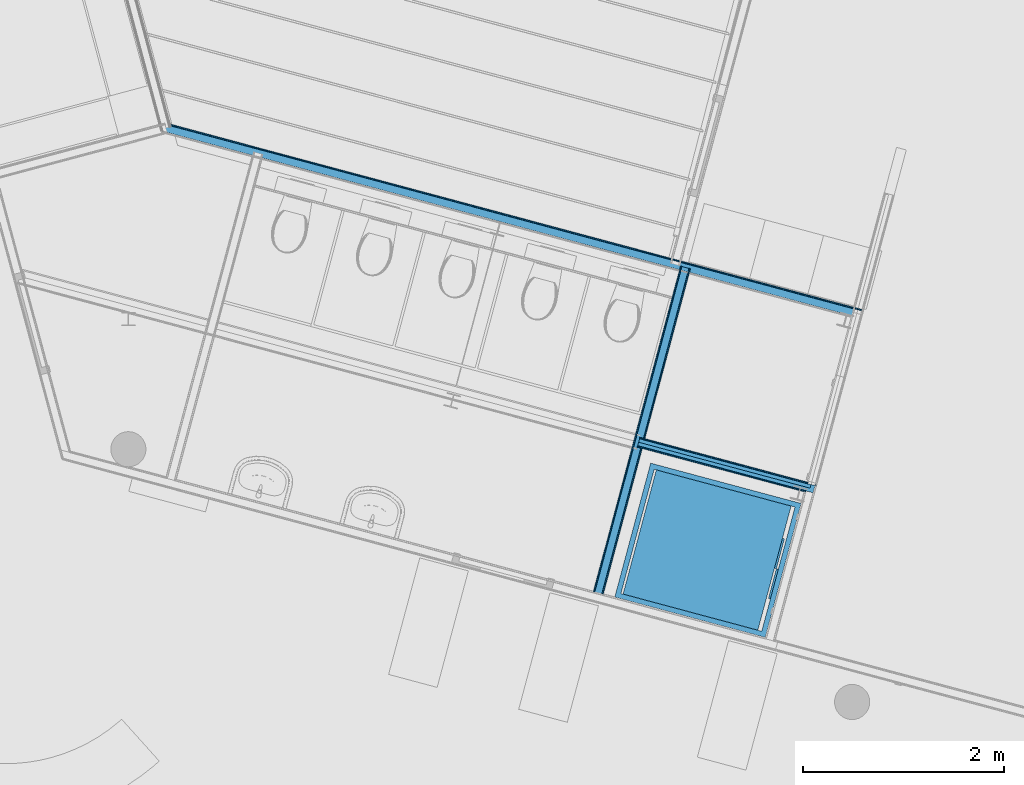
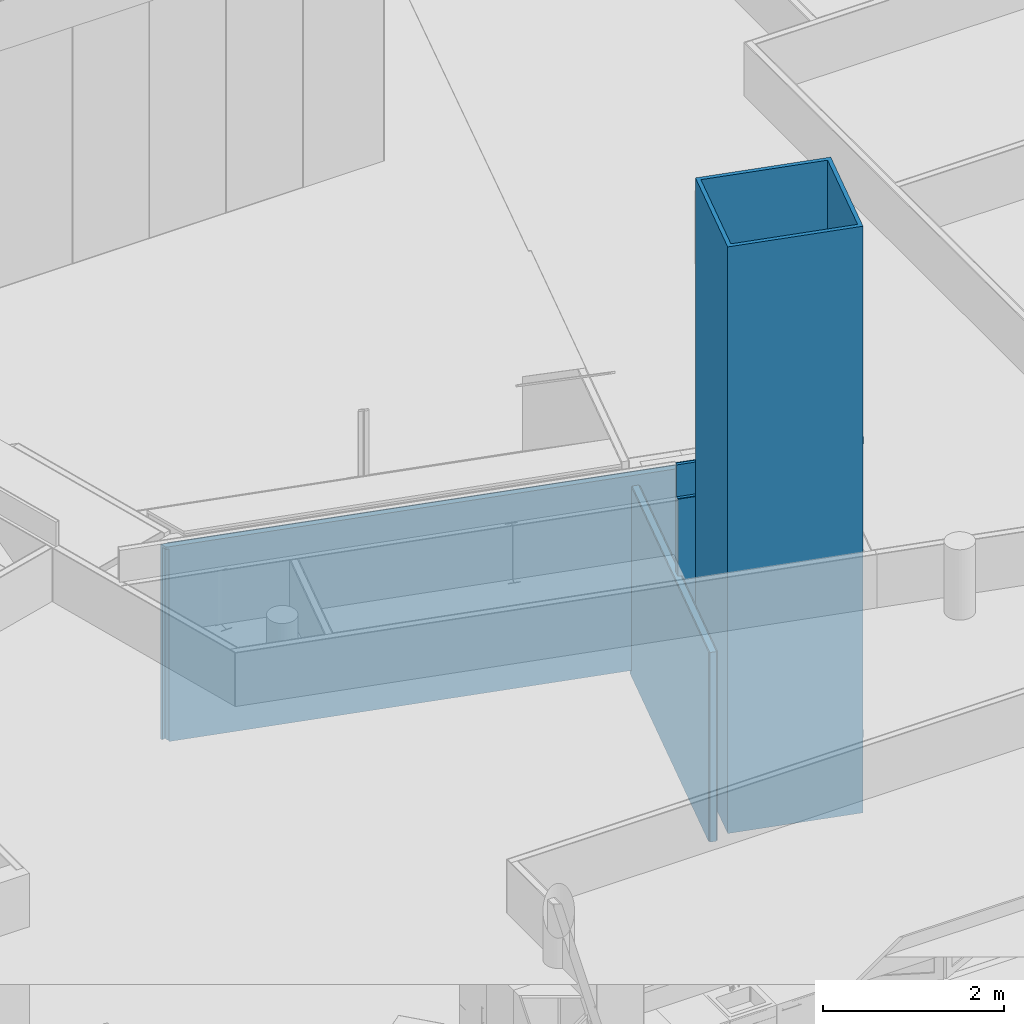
# One storey, part 55 of 167: 10 building element parts, 4 elements without a shape of their own.
"""IFC2X3 building model written with IfcOpenShell, lengths in millimetres."""

from ifc_helpers import new_model, entity, si_unit, converted_unit, derived_unit, money_unit, direction, frame, origin_with_axes, place, context, subcontext, project, spatial, faceted_brep, material, type_object, element, aggregate, save


model = new_model("IFC2X3")

# Units and contexts
model_context = context("Model", 3, precision=0.01, world=origin_with_axes(), true_north=direction((0.0, 1.0)))
plan_context = context("Plan", 3, precision=0.01, world=origin_with_axes(), true_north=direction((0.0, 1.0)))
body_context = subcontext(model_context, "Body", "Model", "MODEL_VIEW")
ifc_project = project(units=[si_unit("LENGTHUNIT", "METRE", prefix="MILLI"), si_unit("AREAUNIT", "SQUARE_METRE"), si_unit("VOLUMEUNIT", "CUBIC_METRE"), converted_unit("PLANEANGLEUNIT", "DEGREE", entity("IfcPlaneAngleMeasure", 0.0174532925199), si_unit("PLANEANGLEUNIT", "RADIAN"), dimensions=[0, 0, 0, 0, 0, 0, 0]), si_unit("SOLIDANGLEUNIT", "STERADIAN"), money_unit("EUR"), converted_unit("TIMEUNIT", "Year", entity("IfcTimeMeasure", 31556926.0), si_unit("TIMEUNIT", "SECOND"), dimensions=[0, 0, 1, 0, 0, 0, 0]), si_unit("MASSUNIT", "GRAM", prefix="KILO"), si_unit("THERMODYNAMICTEMPERATUREUNIT", "DEGREE_CELSIUS"), si_unit("LUMINOUSINTENSITYUNIT", "LUMEN"), si_unit("ENERGYUNIT", "JOULE", prefix="MEGA"), derived_unit("THERMALCONDUCTANCEUNIT", [(si_unit("POWERUNIT", "WATT"), 1), (si_unit("LENGTHUNIT", "METRE"), -1), (si_unit("THERMODYNAMICTEMPERATUREUNIT", "KELVIN"), -1)]), derived_unit("SPECIFICHEATCAPACITYUNIT", [(si_unit("ENERGYUNIT", "JOULE"), 1), (si_unit("MASSUNIT", "GRAM", prefix="KILO"), -1), (si_unit("THERMODYNAMICTEMPERATUREUNIT", "KELVIN"), -1)]), derived_unit("MASSDENSITYUNIT", [(si_unit("MASSUNIT", "GRAM", prefix="KILO"), 1), (si_unit("VOLUMEUNIT", "CUBIC_METRE"), -1)])], contexts=[model_context, plan_context])

# Site, building, storey
site_placement = place(None, origin_with_axes())
site = spatial("IfcSite", under=ifc_project, at=site_placement, Name="Site", CompositionType="ELEMENT")
building_placement = place(site_placement, origin_with_axes())
building = spatial("IfcBuilding", under=site, at=building_placement, Name="Naam gebouw", CompositionType="ELEMENT")
storey_placement = place(building_placement, origin_with_axes())
storey = spatial("IfcBuildingStorey", under=building, at=storey_placement, Name="Begane grond", CompositionType="ELEMENT", Elevation=0.0)

# Wall, building element parts
wall_type = type_object("IfcWallType", Name="_TenW_22_Metalstud 100 enkel gipsvezelplaat 100", PredefinedType="NOTDEFINED")
wall_1_placement = place(storey_placement, frame((19476.3922091, 13384.1557143, -100.0), z_axis=(0.0, 0.0, 1.0), x_axis=(0.965925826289, -0.258819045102, 0.0)))
wall_1 = element("IfcWall", 1, at=wall_1_placement, inside=storey, type_object=wall_type, Name="22_Wand_Wand-x")
ifc_material_1 = material(Name="Gipsplaat watervast")
building_element_part_1_placement = place(wall_1_placement, origin_with_axes())
building_element_part_1 = element("IfcBuildingElementPart", 2, at=building_element_part_1_placement, material=ifc_material_1, Name="Gipsplaat watervast", context=body_context, shape_type="Brep", body=[
    faceted_brep([(1673.67397269, 49.9999999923, 2545.5), (1673.67397269, 49.9999999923, 2661.5), (1731.81807193, 49.9999993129, 2661.5), (1731.81807192, 49.9999993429, 2545.5), (1673.67397269, 37.5, 2545.5), (1673.67397269, 37.5, 2661.5), (1731.81807192, 37.4999950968, 2661.5), (1731.81807191, 37.499995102, 2545.5)], [[[0, 1, 2, 3]], [[1, 0, 4, 5]], [[6, 2, 1, 5]], [[7, 3, 2, 6]], [[0, 3, 7, 4]], [[4, 7, 6, 5]]]),
    faceted_brep([(1806.81807167, 49.9999999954, 30.0), (1806.81807172, 49.9999994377, 3630.0), (1819.31807376, 49.9999995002, 3630.0), (1819.3180912, 49.9999999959, 30.0), (1806.81807167, 37.4999952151, 30.0), (1806.81807167, 37.4999950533, 3630.0), (1819.31807376, 37.4999995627, 3630.0), (1819.3180912, 37.4999999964, 30.0)], [[[0, 1, 2, 3]], [[4, 5, 1, 0]], [[5, 6, 2, 1]], [[3, 2, 6, 7]], [[4, 0, 3, 7]], [[7, 6, 5, 4]]]),
    faceted_brep([(1731.81807192, 37.4999950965, 2670.0), (1731.81807194, 49.9999993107, 2670.0), (1731.81807207, 49.9999989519, 4060.0), (1731.81807205, 37.499995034, 4060.0), (1600.92397269, 49.9999999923, 2670.0), (1600.92397269, 37.5, 2670.0), (1600.92397269, 49.9999999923, 2537.0), (1731.81807192, 49.9999993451, 2537.0), (1731.81807168, 49.9999999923, 30.0), (50.0, 50.0, 30.0), (50.0, 50.0, 2590.0), (0.0, 49.9999892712, 2590.0), (0.0, 49.9999892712, 4060.0), (1600.92397269, 49.9999999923, 2661.5), (1668.17397269, 49.9999999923, 2661.5), (1668.17397269, 49.9999999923, 2545.5), (1600.92397269, 49.9999999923, 2545.5), (0.0, 37.4999906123, 4060.0), (0.0, 37.4999906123, 2590.0), (50.0, 37.5, 2590.0), (50.0, 37.5, 30.0), (1731.81807168, 37.4999952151, 30.0), (1731.81807191, 37.4999951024, 2537.0), (1600.92397269, 37.5, 2537.0), (1600.92397269, 37.5, 2545.5), (1668.17397269, 37.5, 2545.5), (1668.17397269, 37.5, 2661.5), (1600.92397269, 37.5, 2661.5)], [[[0, 1, 2, 3]], [[4, 1, 0, 5]], [[6, 7, 8, 9, 10, 11, 12, 2, 1, 4, 13, 14, 15, 16]], [[12, 17, 3, 2]], [[5, 0, 3, 17, 18, 19, 20, 21, 22, 23, 24, 25, 26, 27]], [[13, 4, 5, 27]], [[22, 7, 6, 23]], [[7, 22, 21, 8]], [[20, 9, 8, 21]], [[10, 9, 20, 19]], [[18, 11, 10, 19]], [[17, 12, 11, 18]], [[14, 13, 27, 26]], [[15, 14, 26, 25]], [[16, 15, 25, 24]], [[6, 16, 24, 23]]]),
])
ifc_material_2 = material(Name="Isolatie - Steenwol zacht")
building_element_part_2_placement = place(wall_1_placement, origin_with_axes())
building_element_part_2 = element("IfcBuildingElementPart", 3, at=building_element_part_2_placement, material=ifc_material_2, Name="Isolatie - Steenwol zacht", context=body_context, shape_type="Brep", body=[
    faceted_brep([(1765.58246867, 37.4999992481, 4060.0), (1765.58246867, 37.5, 3630.0), (1806.81807167, 37.499999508, 3630.0), (1806.81807167, 37.4999999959, 30.0), (37.5, 37.5, 30.0), (37.5, 37.5, 2590.0), (0.0, 37.4999906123, 2590.0), (0.0, 37.4999906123, 4060.0), (1673.67397269, 37.5, 2661.5), (1740.92397269, 37.5, 2661.5), (1740.92397269, 37.5, 2670.0), (1600.92397269, 37.5, 2670.0), (1600.92397269, 37.5, 2661.5), (1668.17397269, 37.5, 2661.5), (1668.17397269, 37.5, 2545.5), (1600.92397269, 37.5, 2545.5), (1600.92397269, 37.5, 2537.0), (1740.92397269, 37.5, 2537.0), (1740.92397269, 37.5, 2545.5), (1673.67397269, 37.5, 2545.5), (1765.5930145, -1.84741111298e-10, 4060.0), (1765.5930145, -1.84741111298e-10, 3630.0), (0.0, 5.82645043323e-10, 3630.0), (0.0, -37.5000013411, 3630.0), (1806.81807167, -37.5000000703, 3630.0), (1806.81807167, -37.5000000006, 30.0), (37.5, -37.5, 30.0), (37.5, -37.5, 2590.0), (0.0, -37.5000013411, 2590.0), (0.0, 5.82645043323e-10, 4060.0), (1673.67397269, -15.0000000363, 2661.5), (1740.92397269, -15.0000000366, 2661.5), (1740.92397269, -15.0000000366, 2670.0), (1600.92397269, -15.000000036, 2670.0), (1600.92397269, -15.000000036, 2661.5), (1668.17397269, -15.0000000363, 2661.5), (1668.17397269, -15.0000000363, 2545.5), (1600.92397269, -15.000000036, 2545.5), (1600.92397269, -15.000000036, 2537.0), (1740.92397269, -15.0000000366, 2537.0), (1740.92397269, -15.0000000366, 2545.5), (1673.67397269, -15.0000000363, 2545.5)], [[[0, 1, 2, 3, 4, 5, 6, 7], [8, 9, 10, 11, 12, 13, 14, 15, 16, 17, 18, 19]], [[20, 21, 1, 0]], [[1, 21, 22, 23, 24, 2]], [[3, 2, 24, 25]], [[26, 4, 3, 25]], [[5, 4, 26, 27]], [[27, 28, 6, 5]], [[23, 22, 29, 7, 6, 28]], [[7, 29, 20, 0]], [[9, 8, 30, 31]], [[10, 9, 31, 32]], [[11, 10, 32, 33]], [[12, 11, 33, 34]], [[13, 12, 34, 35]], [[14, 13, 35, 36]], [[15, 14, 36, 37]], [[16, 15, 37, 38]], [[17, 16, 38, 39]], [[18, 17, 39, 40]], [[19, 18, 40, 41]], [[8, 19, 41, 30]], [[20, 29, 22, 21]], [[24, 23, 28, 27, 26, 25]], [[32, 31, 30, 41, 40, 39, 38, 37, 36, 35, 34, 33]]]),
])
building_element_part_3_placement = place(wall_1_placement, origin_with_axes())
building_element_part_3 = element("IfcBuildingElementPart", 4, at=building_element_part_3_placement, material=ifc_material_1, Name="Gipsplaat watervast", context=body_context, shape_type="Brep", body=[
    faceted_brep([(0.0, -37.5000013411, 2590.0), (0.0, -37.5000013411, 3630.0), (1731.81807167, -37.5000001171, 3630.0), (1731.81807167, -37.500000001, 30.0), (50.0, -37.5, 30.0), (50.0, -37.5, 2590.0), (0.0, -50.0, 2590.0), (0.0, -50.0, 3630.0), (1731.81807167, -50.0, 3630.0), (1731.81807167, -50.0, 30.0), (50.0, -50.0, 30.0), (50.0, -50.0, 2590.0)], [[[0, 1, 2, 3, 4, 5]], [[6, 7, 1, 0]], [[7, 8, 2, 1]], [[3, 2, 8, 9]], [[10, 4, 3, 9]], [[5, 4, 10, 11]], [[6, 0, 5, 11]], [[9, 8, 7, 6, 11, 10]]]),
])
aggregate(wall_1, [building_element_part_1, building_element_part_2, building_element_part_3])

wall_2_placement = place(storey_placement, frame((14773.2838632, 16507.8655572, 0.0), z_axis=(0.0, 0.0, 1.0), x_axis=(0.965925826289, -0.258819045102, 0.0)))
wall_2 = element("IfcWall", 5, at=wall_2_placement, inside=storey, type_object=wall_type, Name="22_Wand_Wand-x")
building_element_part_4_placement = place(wall_2_placement, origin_with_axes())
building_element_part_4 = element("IfcBuildingElementPart", 6, at=building_element_part_4_placement, material=ifc_material_1, Name="Gipsplaat watervast", context=body_context, shape_type="Brep", body=[
    faceted_brep([(14.4337567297, 50.0, 2630.0), (7070.6474855, 50.0, 2630.0), (7070.6474855, 50.0, 2490.0), (7170.6474855, 50.0, 2490.0), (7170.64750293, 50.0, 0.0), (14.4337567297, 50.0, 0.0), (21.6506350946, 37.5, 2630.0), (7070.6474855, 37.5, 2630.0), (7070.6474855, 37.5, 2490.0), (7170.6474855, 37.5, 2490.0), (7170.64750293, 37.5, 0.0), (21.6506350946, 37.5, 0.0)], [[[0, 1, 2, 3, 4, 5]], [[6, 7, 1, 0]], [[8, 2, 1, 7]], [[9, 3, 2, 8]], [[4, 3, 9, 10]], [[11, 5, 4, 10]], [[5, 11, 6, 0]], [[9, 8, 7, 6, 11, 10]]]),
])
building_element_part_5_placement = place(wall_2_placement, origin_with_axes())
building_element_part_5 = element("IfcBuildingElementPart", 7, at=building_element_part_5_placement, material=ifc_material_2, Name="Isolatie - Steenwol zacht", context=body_context, shape_type="Brep", body=[
    faceted_brep([(7025.00338651, -37.5, 2561.5), (7025.00338651, -37.5, 2445.5), (7092.25338651, -37.5, 2445.5), (7092.25338651, -37.5, 2437.0), (6952.25338651, -37.5, 2437.0), (6952.25338651, -37.5, 2445.5), (7019.50338651, -37.5, 2445.5), (7019.50338651, -37.5, 2561.5), (6952.25338651, -37.5, 2561.5), (6952.25338651, -37.5, 2570.0), (7083.1474855, -37.5, 2570.0), (7083.1474855, -37.5, 2630.0), (-21.6506350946, -37.5, 2630.0), (-21.6506350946, -37.5, 2600.0), (10.9879043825, -37.5, 2600.0), (10.9879043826, -37.5, 0.0), (7158.1474855, -37.5, 0.0), (7158.1474855, -37.5, 2490.0), (7083.1474855, -37.5, 2490.0), (7083.1474855, -37.5, 2561.5), (7025.00338651, -29.2165311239, 2561.5), (7025.00338651, -29.2165311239, 2445.5), (7092.25338651, -29.2165311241, 2445.5), (7092.25338651, -29.2165311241, 2437.0), (6952.25338651, -29.2165311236, 2437.0), (6952.25338651, -29.2165311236, 2445.5), (7019.50338651, -29.2165311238, 2445.5), (7019.50338651, -29.2165311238, 2561.5), (6952.25338651, -29.2165311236, 2561.5), (6952.25338651, -29.2165311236, 2570.0), (7083.1474855, -29.2165311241, 2570.0), (7083.1474855, -29.2165311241, 2561.5), (7083.1474855, 37.5, 2490.0), (7083.1474855, 37.5, 2630.0), (-64.9519052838, 37.5, 2630.0), (-50.9910002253, 13.319003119, 0.0), (-50.9910002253, 13.319003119, 2600.0), (-64.9519052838, 37.5, 0.0), (20.5037087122, -32.0060478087, 2600.0), (-16.9962912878, 32.9458574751, 2600.0), (20.5037087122, -32.0060478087, 0.0), (-16.9962912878, 32.9458574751, 0.0), (7158.1474855, 37.5, 0.0), (7158.1474855, 37.5, 2490.0)], [[[0, 1, 2, 3, 4, 5, 6, 7, 8, 9, 10, 11, 12, 13, 14, 15, 16, 17, 18, 19]], [[1, 0, 20, 21]], [[2, 1, 21, 22]], [[3, 2, 22, 23]], [[4, 3, 23, 24]], [[5, 4, 24, 25]], [[6, 5, 25, 26]], [[7, 6, 26, 27]], [[8, 7, 27, 28]], [[9, 8, 28, 29]], [[30, 10, 9, 29]], [[31, 19, 18, 32, 33, 11, 10, 30]], [[12, 11, 33, 34]], [[35, 36, 13, 12, 34, 37]], [[38, 14, 13, 36, 39]], [[38, 40, 15, 14]], [[40, 41, 35, 37, 42, 16, 15]], [[16, 42, 43, 17]], [[18, 17, 43, 32]], [[19, 31, 20, 0]], [[31, 30, 29, 28, 27, 26, 25, 24, 23, 22, 21, 20]], [[32, 43, 42, 37, 34, 33]], [[36, 35, 41, 39]], [[39, 41, 40, 38]]]),
])
aggregate(wall_2, [building_element_part_4, building_element_part_5])

wall_3_placement = place(storey_placement, frame((19942.271149, 15122.8395883, -100.0), z_axis=(0.0, 0.0, 1.0), x_axis=(-0.258819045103, -0.965925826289, 0.0)))
wall_3 = element("IfcWall", 8, at=wall_3_placement, inside=storey, type_object=wall_type, Name="22_Wand_Wand-x")
building_element_part_6_placement = place(wall_3_placement, origin_with_axes())
building_element_part_6 = element("IfcBuildingElementPart", 9, at=building_element_part_6_placement, material=ifc_material_1, Name="Gipsplaat watervast", context=body_context, shape_type="Brep", body=[
    faceted_brep([(1762.518, 50.0, 30.0), (0.0, 50.0, 30.0), (0.0, 50.0, 100.0), (50.0, 50.0, 100.0), (50.0, 50.0, 2590.0), (1762.518, 50.0, 2590.0), (0.0, 37.5, 30.0), (1762.518, 37.5, 30.0), (0.0, 37.5, 100.0), (50.0, 37.5, 100.0), (50.0, 37.5, 2590.0), (1762.518, 37.5, 2590.0)], [[[0, 1, 2, 3, 4, 5]], [[6, 1, 0, 7]], [[1, 6, 8, 2]], [[2, 8, 9, 3]], [[9, 10, 4, 3]], [[5, 4, 10, 11]], [[7, 0, 5, 11]], [[6, 7, 11, 10, 9, 8]]]),
    faceted_brep([(3349.99455544, 50.0, 30.0), (1837.518, 50.0, 30.0), (1837.518, 50.0, 2590.0), (3349.99455544, 50.0, 2590.0), (1837.518, 37.5, 30.0), (3349.99455544, 37.5, 30.0), (1837.518, 37.5, 2590.0), (3349.99455544, 37.5, 2590.0)], [[[0, 1, 2, 3]], [[4, 1, 0, 5]], [[1, 4, 6, 2]], [[2, 6, 7, 3]], [[5, 0, 3, 7]], [[4, 5, 7, 6]]]),
])
building_element_part_7_placement = place(wall_3_placement, origin_with_axes())
building_element_part_7 = element("IfcBuildingElementPart", 10, at=building_element_part_7_placement, material=ifc_material_2, Name="Isolatie - Steenwol zacht", context=body_context, shape_type="Brep", body=[
    faceted_brep([(3362.49455544, 37.5, 30.0), (0.0, 37.5, 30.0), (0.0, 37.5, 100.0), (37.5, 37.5, 100.0), (37.5, 37.5, 2590.0), (3362.49455544, 37.5, 2590.0), (0.0, -37.5, 30.0), (3362.49455544, -37.5, 30.0), (0.0, -37.5, 100.0), (37.5, -37.5, 100.0), (37.5, -37.5, 2590.0), (3362.49455544, -37.5, 2590.0)], [[[0, 1, 2, 3, 4, 5]], [[6, 1, 0, 7]], [[1, 6, 8, 2]], [[9, 3, 2, 8]], [[9, 10, 4, 3]], [[5, 4, 10, 11]], [[7, 0, 5, 11]], [[6, 7, 11, 10, 9, 8]]]),
])
building_element_part_8_placement = place(wall_3_placement, origin_with_axes())
building_element_part_8 = element("IfcBuildingElementPart", 11, at=building_element_part_8_placement, material=ifc_material_1, Name="Gipsplaat watervast", context=body_context, shape_type="Brep", body=[
    faceted_brep([(3349.99455544, -37.5, 30.0), (0.0, -37.5, 30.0), (0.0, -37.5, 100.0), (50.0, -37.5, 100.0), (50.0, -37.5, 2590.0), (3349.99455544, -37.5, 2590.0), (0.0, -50.0, 30.0), (3349.99455544, -50.0, 30.0), (0.0, -50.0, 100.0), (50.0, -50.0, 100.0), (50.0, -50.0, 2590.0), (3349.99455544, -50.0, 2590.0)], [[[0, 1, 2, 3, 4, 5]], [[6, 1, 0, 7]], [[1, 6, 8, 2]], [[2, 8, 9, 3]], [[9, 10, 4, 3]], [[5, 4, 10, 11]], [[7, 0, 5, 11]], [[6, 7, 11, 10, 9, 8]]]),
])
aggregate(wall_3, [building_element_part_6, building_element_part_7, building_element_part_8])

# Proxy, building element parts
building_element_proxy_type = type_object("IfcBuildingElementProxyType", Name="Lift 24", PredefinedType="NOTDEFINED")
proxy_placement = place(storey_placement, frame((20735.9624861, 11442.0010677, 0.0), z_axis=(0.0, 0.0, 1.0), x_axis=(0.258819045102, 0.965925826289, 0.0)))
proxy = element("IfcBuildingElementProxy", 12, at=proxy_placement, inside=storey, type_object=building_element_proxy_type, Name="__Object-x")
building_element_part_9_placement = place(proxy_placement, origin_with_axes())
building_element_part_9 = element("IfcBuildingElementPart", 13, at=building_element_part_9_placement, context=body_context, shape_type="Brep", body=[
    faceted_brep([(996.75, 170.0, 3960.0), (1249.0, 170.0, 3960.0), (1249.0, 1398.0, 3960.0), (131.0, 1398.0, 3960.0), (131.0, 170.0, 3960.0), (383.25, 170.0, 3960.0), (383.25, 90.0, 3960.0), (51.0, 90.0, 3960.0), (51.0, 1478.0, 3960.0), (1329.0, 1478.0, 3960.0), (1329.0, 90.0, 3960.0), (996.75, 90.0, 3960.0), (131.0, 170.0, 6360.0), (1249.0, 170.0, 6360.0), (996.75, 170.0, 6260.0), (383.25, 170.0, 6260.0), (1249.0, 1398.0, 6360.0), (131.0, 1398.0, 6360.0), (383.25, 90.0, 6260.0), (996.75, 90.0, 6260.0), (1329.0, 90.0, 6360.0), (51.0, 90.0, 6360.0), (51.0, 1478.0, 6360.0), (1329.0, 1478.0, 6360.0)], [[[0, 1, 2, 3, 4, 5, 6, 7, 8, 9, 10, 11]], [[12, 13, 1, 0, 14, 15, 5, 4]], [[13, 16, 2, 1]], [[16, 17, 3, 2]], [[17, 12, 4, 3]], [[5, 15, 18, 6]], [[7, 6, 18, 19, 11, 10, 20, 21]], [[21, 22, 8, 7]], [[22, 23, 9, 8]], [[23, 20, 10, 9]], [[14, 0, 11, 19]], [[23, 22, 21, 20], [12, 17, 16, 13]], [[15, 14, 19, 18]]]),
    faceted_brep([(51.0, 90.0, 3910.0), (1329.0, 90.0, 3910.0), (1329.0, 90.0, 3960.0), (51.0, 90.0, 3960.0), (51.0, 1478.0, 3910.0), (1329.0, 1478.0, 3910.0), (1329.0, 1478.0, 3960.0), (51.0, 1478.0, 3960.0)], [[[0, 1, 2, 3]], [[0, 4, 5, 1]], [[1, 5, 6, 2]], [[3, 2, 6, 7]], [[4, 0, 3, 7]], [[5, 4, 7, 6]]]),
    faceted_brep([(51.0, 90.0, 6360.0), (1329.0, 90.0, 6360.0), (1329.0, 90.0, 6410.0), (51.0, 90.0, 6410.0), (51.0, 1478.0, 6360.0), (1329.0, 1478.0, 6360.0), (1329.0, 1478.0, 6410.0), (51.0, 1478.0, 6410.0)], [[[0, 1, 2, 3]], [[0, 4, 5, 1]], [[1, 5, 6, 2]], [[3, 2, 6, 7]], [[4, 0, 3, 7]], [[5, 4, 7, 6]]]),
    faceted_brep([(1249.0, 270.0, 4960.0), (1249.0, 370.0, 4960.0), (1249.0, 370.0, 5060.0), (1249.0, 270.0, 5060.0), (1239.0, 270.0, 4960.0), (1239.0, 370.0, 4960.0), (1239.0, 370.0, 5060.0), (1239.0, 270.0, 5060.0)], [[[0, 1, 2, 3]], [[1, 0, 4, 5]], [[2, 1, 5, 6]], [[3, 2, 6, 7]], [[0, 3, 7, 4]], [[5, 4, 7, 6]]]),
    faceted_brep([(1239.0, 350.428932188, 4965.42893219), (1239.0, 350.428932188, 4979.57106781), (1234.0, 351.843145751, 4978.15685425), (1234.0, 351.843145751, 4966.84314575), (1239.0, 364.571067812, 4965.42893219), (1239.0, 364.571067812, 4979.57106781), (1234.0, 363.156854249, 4978.15685425), (1234.0, 363.156854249, 4966.84314575)], [[[0, 1, 2, 3]], [[0, 4, 5, 1]], [[1, 5, 6, 2]], [[3, 2, 6, 7]], [[4, 0, 3, 7]], [[5, 4, 7, 6]]]),
    faceted_brep([(1239.0, 325.428932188, 4965.42893219), (1239.0, 325.428932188, 4979.57106781), (1234.0, 326.843145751, 4978.15685425), (1234.0, 326.843145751, 4966.84314575), (1239.0, 339.571067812, 4965.42893219), (1239.0, 339.571067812, 4979.57106781), (1234.0, 338.156854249, 4978.15685425), (1234.0, 338.156854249, 4966.84314575)], [[[0, 1, 2, 3]], [[0, 4, 5, 1]], [[1, 5, 6, 2]], [[3, 2, 6, 7]], [[4, 0, 3, 7]], [[5, 4, 7, 6]]]),
    faceted_brep([(1239.0, 300.428932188, 4965.42893219), (1239.0, 300.428932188, 4979.57106781), (1234.0, 301.843145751, 4978.15685425), (1234.0, 301.843145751, 4966.84314575), (1239.0, 314.571067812, 4965.42893219), (1239.0, 314.571067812, 4979.57106781), (1234.0, 313.156854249, 4978.15685425), (1234.0, 313.156854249, 4966.84314575)], [[[0, 1, 2, 3]], [[0, 4, 5, 1]], [[1, 5, 6, 2]], [[3, 2, 6, 7]], [[4, 0, 3, 7]], [[5, 4, 7, 6]]]),
    faceted_brep([(1239.0, 275.428932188, 4965.42893219), (1239.0, 275.428932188, 4979.57106781), (1234.0, 276.843145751, 4978.15685425), (1234.0, 276.843145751, 4966.84314575), (1239.0, 289.571067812, 4965.42893219), (1239.0, 289.571067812, 4979.57106781), (1234.0, 288.156854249, 4978.15685425), (1234.0, 288.156854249, 4966.84314575)], [[[0, 1, 2, 3]], [[0, 4, 5, 1]], [[1, 5, 6, 2]], [[3, 2, 6, 7]], [[4, 0, 3, 7]], [[5, 4, 7, 6]]]),
    faceted_brep([(1239.0, 350.428932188, 5040.42893219), (1239.0, 350.428932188, 5054.57106781), (1234.0, 351.843145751, 5053.15685425), (1234.0, 351.843145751, 5041.84314575), (1239.0, 364.571067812, 5040.42893219), (1239.0, 364.571067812, 5054.57106781), (1234.0, 363.156854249, 5053.15685425), (1234.0, 363.156854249, 5041.84314575)], [[[0, 1, 2, 3]], [[0, 4, 5, 1]], [[1, 5, 6, 2]], [[3, 2, 6, 7]], [[4, 0, 3, 7]], [[5, 4, 7, 6]]]),
    faceted_brep([(1239.0, 350.428932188, 5015.42893219), (1239.0, 350.428932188, 5029.57106781), (1234.0, 351.843145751, 5028.15685425), (1234.0, 351.843145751, 5016.84314575), (1239.0, 364.571067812, 5015.42893219), (1239.0, 364.571067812, 5029.57106781), (1234.0, 363.156854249, 5028.15685425), (1234.0, 363.156854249, 5016.84314575)], [[[0, 1, 2, 3]], [[0, 4, 5, 1]], [[1, 5, 6, 2]], [[3, 2, 6, 7]], [[4, 0, 3, 7]], [[5, 4, 7, 6]]]),
    faceted_brep([(203.25, 50.0, 3960.0), (383.25, 50.0, 3960.0), (383.25, -10.0, 3960.0), (203.25, -10.0, 3960.0), (203.25, 50.0, 6440.0), (1176.75, 50.0, 6440.0), (1176.75, 50.0, 3960.0), (996.75, 50.0, 3960.0), (996.75, 50.0, 6260.0), (383.25, 50.0, 6260.0), (383.25, -10.0, 6260.0), (996.75, -10.0, 6260.0), (996.75, -10.0, 3960.0), (1176.75, -10.0, 3960.0), (1176.75, -10.0, 6440.0), (203.25, -10.0, 6440.0)], [[[0, 1, 2, 3]], [[0, 4, 5, 6, 7, 8, 9, 1]], [[1, 9, 10, 2]], [[3, 2, 10, 11, 12, 13, 14, 15]], [[4, 0, 3, 15]], [[5, 4, 15, 14]], [[6, 5, 14, 13]], [[7, 6, 13, 12]], [[8, 7, 12, 11]], [[9, 8, 11, 10]]]),
    faceted_brep([(203.25, 0.0, 3960.0), (223.25, 0.0, 3960.0), (223.25, -10.0, 3960.0), (203.25, -10.0, 3960.0), (203.25, 0.0, 6440.0), (1176.75, 0.0, 6440.0), (1176.75, 0.0, 3960.0), (1156.75, 0.0, 3960.0), (1156.75, 0.0, 6420.0), (223.25, 0.0, 6420.0), (223.25, -10.0, 6420.0), (1156.75, -10.0, 6420.0), (1156.75, -10.0, 3960.0), (1176.75, -10.0, 3960.0), (1176.75, -10.0, 6440.0), (203.25, -10.0, 6440.0)], [[[0, 1, 2, 3]], [[0, 4, 5, 6, 7, 8, 9, 1]], [[1, 9, 10, 2]], [[3, 2, 10, 11, 12, 13, 14, 15]], [[4, 0, 3, 15]], [[5, 4, 15, 14]], [[6, 5, 14, 13]], [[7, 6, 13, 12]], [[8, 7, 12, 11]], [[9, 8, 11, 10]]]),
    faceted_brep([(163.25, 0.0, 3960.0), (223.25, 0.0, 3960.0), (223.25, -20.0, 3960.0), (163.25, -20.0, 3960.0), (163.25, 0.0, 6480.0), (1216.75, 0.0, 6480.0), (1216.75, 0.0, 3960.0), (1156.75, 0.0, 3960.0), (1156.75, 0.0, 6420.0), (223.25, 0.0, 6420.0), (223.25, -20.0, 6420.0), (1156.75, -20.0, 6420.0), (1156.75, -20.0, 3960.0), (1216.75, -20.0, 3960.0), (1216.75, -20.0, 6480.0), (163.25, -20.0, 6480.0)], [[[0, 1, 2, 3]], [[0, 4, 5, 6, 7, 8, 9, 1]], [[1, 9, 10, 2]], [[3, 2, 10, 11, 12, 13, 14, 15]], [[4, 0, 3, 15]], [[5, 4, 15, 14]], [[6, 5, 14, 13]], [[7, 6, 13, 12]], [[8, 7, 12, 11]], [[9, 8, 11, 10]]]),
    faceted_brep([(690.0, 70.0, 3960.0), (383.25, 70.0, 3960.0), (383.25, 70.0, 6260.0), (690.0, 70.0, 6260.0), (690.0, 50.0, 3960.0), (383.25, 50.0, 3960.0), (383.25, 50.0, 6260.0), (690.0, 50.0, 6260.0)], [[[0, 1, 2, 3]], [[1, 0, 4, 5]], [[2, 1, 5, 6]], [[3, 2, 6, 7]], [[0, 3, 7, 4]], [[5, 4, 7, 6]]]),
    faceted_brep([(996.75, 90.0, 3960.0), (690.0, 90.0, 3960.0), (690.0, 90.0, 6260.0), (996.75, 90.0, 6260.0), (996.75, 70.0, 3960.0), (690.0, 70.0, 3960.0), (690.0, 70.0, 6260.0), (996.75, 70.0, 6260.0)], [[[0, 1, 2, 3]], [[1, 0, 4, 5]], [[2, 1, 5, 6]], [[3, 2, 6, 7]], [[0, 3, 7, 4]], [[5, 4, 7, 6]]]),
    faceted_brep([(103.25, 0.0, 4960.0), (23.25, 0.0, 4960.0), (23.25, 0.0, 5060.0), (103.25, 0.0, 5060.0), (103.25, -10.0, 4960.0), (23.25, -10.0, 4960.0), (23.25, -10.0, 5060.0), (103.25, -10.0, 5060.0)], [[[0, 1, 2, 3]], [[1, 0, 4, 5]], [[2, 1, 5, 6]], [[3, 2, 6, 7]], [[0, 3, 7, 4]], [[5, 4, 7, 6]]]),
    faceted_brep([(58.25, -10.0, 5040.0), (58.25, -12.0, 5040.0), (68.25, -12.0, 5040.0), (68.25, -10.0, 5040.0), (58.25, -10.0, 5028.0), (58.25, -12.0, 5028.0), (49.25, -12.0, 5028.0), (63.25, -12.0, 5013.0), (77.25, -12.0, 5028.0), (68.25, -12.0, 5028.0), (68.25, -10.0, 5028.0), (77.25, -10.0, 5028.0), (63.25, -10.0, 5013.0), (49.25, -10.0, 5028.0)], [[[0, 1, 2, 3]], [[4, 5, 1, 0]], [[1, 5, 6, 7, 8, 9, 2]], [[3, 2, 9, 10]], [[0, 3, 10, 11, 12, 13, 4]], [[13, 6, 5, 4]], [[12, 7, 6, 13]], [[11, 8, 7, 12]], [[10, 9, 8, 11]]]),
    faceted_brep([(73.6423048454, -10.0, 4984.0), (75.25, -10.0, 4990.0), (73.25, -16.0, 4990.0), (71.9102540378, -16.0, 4985.0), (69.25, -10.0, 4979.60769515), (63.25, -10.0, 4978.0), (57.25, -10.0, 4979.60769515), (52.8576951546, -10.0, 4984.0), (51.25, -10.0, 4990.0), (52.8576951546, -10.0, 4996.0), (57.25, -10.0, 5000.39230485), (63.25, -10.0, 5002.0), (69.25, -10.0, 5000.39230485), (73.6423048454, -10.0, 4996.0), (71.9102540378, -16.0, 4995.0), (68.25, -16.0, 4998.66025404), (63.25, -16.0, 5000.0), (58.25, -16.0, 4998.66025404), (54.5897459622, -16.0, 4995.0), (53.25, -16.0, 4990.0), (54.5897459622, -16.0, 4985.0), (58.25, -16.0, 4981.33974596), (63.25, -16.0, 4980.0), (68.25, -16.0, 4981.33974596)], [[[0, 1, 2, 3]], [[0, 4, 5, 6, 7, 8, 9, 10, 11, 12, 13, 1]], [[1, 13, 14, 2]], [[3, 2, 14, 15, 16, 17, 18, 19, 20, 21, 22, 23]], [[4, 0, 3, 23]], [[5, 4, 23, 22]], [[6, 5, 22, 21]], [[7, 6, 21, 20]], [[8, 7, 20, 19]], [[9, 8, 19, 18]], [[10, 9, 18, 17]], [[11, 10, 17, 16]], [[12, 11, 16, 15]], [[13, 12, 15, 14]]]),
    faceted_brep([(203.25, 50.0, 0.0), (383.25, 50.0, 0.0), (383.25, -10.0, 0.0), (203.25, -10.0, 0.0), (203.25, 50.0, 2480.0), (1176.75, 50.0, 2480.0), (1176.75, 50.0, 0.0), (996.75, 50.0, 0.0), (996.75, 50.0, 2300.0), (383.25, 50.0, 2300.0), (383.25, -10.0, 2300.0), (996.75, -10.0, 2300.0), (996.75, -10.0, 0.0), (1176.75, -10.0, 0.0), (1176.75, -10.0, 2480.0), (203.25, -10.0, 2480.0)], [[[0, 1, 2, 3]], [[0, 4, 5, 6, 7, 8, 9, 1]], [[1, 9, 10, 2]], [[3, 2, 10, 11, 12, 13, 14, 15]], [[4, 0, 3, 15]], [[5, 4, 15, 14]], [[6, 5, 14, 13]], [[7, 6, 13, 12]], [[8, 7, 12, 11]], [[9, 8, 11, 10]]]),
    faceted_brep([(203.25, 0.0, 0.0), (223.25, 0.0, 0.0), (223.25, -10.0, 0.0), (203.25, -10.0, 0.0), (203.25, 0.0, 2480.0), (1176.75, 0.0, 2480.0), (1176.75, 0.0, 0.0), (1156.75, 0.0, 0.0), (1156.75, 0.0, 2460.0), (223.25, 0.0, 2460.0), (223.25, -10.0, 2460.0), (1156.75, -10.0, 2460.0), (1156.75, -10.0, 0.0), (1176.75, -10.0, 0.0), (1176.75, -10.0, 2480.0), (203.25, -10.0, 2480.0)], [[[0, 1, 2, 3]], [[0, 4, 5, 6, 7, 8, 9, 1]], [[1, 9, 10, 2]], [[3, 2, 10, 11, 12, 13, 14, 15]], [[4, 0, 3, 15]], [[5, 4, 15, 14]], [[6, 5, 14, 13]], [[7, 6, 13, 12]], [[8, 7, 12, 11]], [[9, 8, 11, 10]]]),
    faceted_brep([(163.25, 0.0, 0.0), (223.25, 0.0, 0.0), (223.25, -20.0, 0.0), (163.25, -20.0, 0.0), (163.25, 0.0, 2520.0), (1216.75, 0.0, 2520.0), (1216.75, 0.0, 0.0), (1156.75, 0.0, 0.0), (1156.75, 0.0, 2460.0), (223.25, 0.0, 2460.0), (223.25, -20.0, 2460.0), (1156.75, -20.0, 2460.0), (1156.75, -20.0, 0.0), (1216.75, -20.0, 0.0), (1216.75, -20.0, 2520.0), (163.25, -20.0, 2520.0)], [[[0, 1, 2, 3]], [[0, 4, 5, 6, 7, 8, 9, 1]], [[1, 9, 10, 2]], [[3, 2, 10, 11, 12, 13, 14, 15]], [[4, 0, 3, 15]], [[5, 4, 15, 14]], [[6, 5, 14, 13]], [[7, 6, 13, 12]], [[8, 7, 12, 11]], [[9, 8, 11, 10]]]),
    faceted_brep([(690.0, 70.0, 0.0), (383.25, 70.0, 0.0), (383.25, 70.0, 2300.0), (690.0, 70.0, 2300.0), (690.0, 50.0, 0.0), (383.25, 50.0, 0.0), (383.25, 50.0, 2300.0), (690.0, 50.0, 2300.0)], [[[0, 1, 2, 3]], [[1, 0, 4, 5]], [[2, 1, 5, 6]], [[3, 2, 6, 7]], [[0, 3, 7, 4]], [[5, 4, 7, 6]]]),
    faceted_brep([(996.75, 90.0, 0.0), (690.0, 90.0, 0.0), (690.0, 90.0, 2300.0), (996.75, 90.0, 2300.0), (996.75, 70.0, 0.0), (690.0, 70.0, 0.0), (690.0, 70.0, 2300.0), (996.75, 70.0, 2300.0)], [[[0, 1, 2, 3]], [[1, 0, 4, 5]], [[2, 1, 5, 6]], [[3, 2, 6, 7]], [[0, 3, 7, 4]], [[5, 4, 7, 6]]]),
    faceted_brep([(103.25, 0.0, 1000.0), (23.25, 0.0, 1000.0), (23.25, 0.0, 1100.0), (103.25, 0.0, 1100.0), (103.25, -10.0, 1000.0), (23.25, -10.0, 1000.0), (23.25, -10.0, 1100.0), (103.25, -10.0, 1100.0)], [[[0, 1, 2, 3]], [[1, 0, 4, 5]], [[2, 1, 5, 6]], [[3, 2, 6, 7]], [[0, 3, 7, 4]], [[5, 4, 7, 6]]]),
    faceted_brep([(58.25, -10.0, 1020.0), (68.25, -10.0, 1020.0), (68.25, -12.0, 1020.0), (58.25, -12.0, 1020.0), (58.25, -10.0, 1032.0), (49.25, -10.0, 1032.0), (63.25, -10.0, 1047.0), (77.25, -10.0, 1032.0), (68.25, -10.0, 1032.0), (68.25, -12.0, 1032.0), (77.25, -12.0, 1032.0), (63.25, -12.0, 1047.0), (49.25, -12.0, 1032.0), (58.25, -12.0, 1032.0)], [[[0, 1, 2, 3]], [[0, 4, 5, 6, 7, 8, 1]], [[1, 8, 9, 2]], [[3, 2, 9, 10, 11, 12, 13]], [[4, 0, 3, 13]], [[5, 4, 13, 12]], [[6, 5, 12, 11]], [[7, 6, 11, 10]], [[8, 7, 10, 9]]]),
    faceted_brep([(73.6423048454, -10.0, 1064.0), (75.25, -10.0, 1070.0), (73.25, -16.0, 1070.0), (71.9102540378, -16.0, 1065.0), (69.25, -10.0, 1059.60769515), (63.25, -10.0, 1058.0), (57.25, -10.0, 1059.60769515), (52.8576951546, -10.0, 1064.0), (51.25, -10.0, 1070.0), (52.8576951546, -10.0, 1076.0), (57.25, -10.0, 1080.39230485), (63.25, -10.0, 1082.0), (69.25, -10.0, 1080.39230485), (73.6423048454, -10.0, 1076.0), (71.9102540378, -16.0, 1075.0), (68.25, -16.0, 1078.66025404), (63.25, -16.0, 1080.0), (58.25, -16.0, 1078.66025404), (54.5897459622, -16.0, 1075.0), (53.25, -16.0, 1070.0), (54.5897459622, -16.0, 1065.0), (58.25, -16.0, 1061.33974596), (63.25, -16.0, 1060.0), (68.25, -16.0, 1061.33974596)], [[[0, 1, 2, 3]], [[0, 4, 5, 6, 7, 8, 9, 10, 11, 12, 13, 1]], [[1, 13, 14, 2]], [[3, 2, 14, 15, 16, 17, 18, 19, 20, 21, 22, 23]], [[4, 0, 3, 23]], [[5, 4, 23, 22]], [[6, 5, 22, 21]], [[7, 6, 21, 20]], [[8, 7, 20, 19]], [[9, 8, 19, 18]], [[10, 9, 18, 17]], [[11, 10, 17, 16]], [[12, 11, 16, 15]], [[13, 12, 15, 14]]]),
])
ifc_material_3 = material(Name="Beton gewapend prefab")
building_element_part_10_placement = place(proxy_placement, origin_with_axes())
building_element_part_10 = element("IfcBuildingElementPart", 14, at=building_element_part_10_placement, material=ifc_material_3, Name="Beton gewapend prefab", context=body_context, shape_type="Brep", body=[
    faceted_brep([(1176.75, 50.0, 3960.0), (1330.0, 50.0, 3960.0), (1330.0, 1500.0, 3960.0), (50.0, 1500.0, 3960.0), (50.0, 50.0, 3960.0), (203.25, 50.0, 3960.0), (203.25, 0.0, 3960.0), (0.0, 0.0, 3960.0), (0.0, 1550.0, 3960.0), (1380.0, 1550.0, 3960.0), (1380.0, 0.0, 3960.0), (1176.75, 0.0, 3960.0), (50.0, 50.0, 7920.0), (1330.0, 50.0, 7920.0), (1176.75, 50.0, 6440.0), (203.25, 50.0, 6440.0), (1330.0, 1500.0, 7920.0), (50.0, 1500.0, 7920.0), (203.25, 0.0, 6440.0), (1176.75, 0.0, 6440.0), (1380.0, 0.0, 7920.0), (0.0, 0.0, 7920.0), (0.0, 1550.0, 7920.0), (1380.0, 1550.0, 7920.0)], [[[0, 1, 2, 3, 4, 5, 6, 7, 8, 9, 10, 11]], [[12, 13, 1, 0, 14, 15, 5, 4]], [[13, 16, 2, 1]], [[16, 17, 3, 2]], [[17, 12, 4, 3]], [[5, 15, 18, 6]], [[7, 6, 18, 19, 11, 10, 20, 21]], [[21, 22, 8, 7]], [[22, 23, 9, 8]], [[23, 20, 10, 9]], [[14, 0, 11, 19]], [[23, 22, 21, 20], [12, 17, 16, 13]], [[15, 14, 19, 18]]]),
    faceted_brep([(1176.75, 50.0, 0.0), (1330.0, 50.0, 0.0), (1330.0, 1500.0, 0.0), (50.0, 1500.0, 0.0), (50.0, 50.0, 0.0), (203.25, 50.0, 0.0), (203.25, 0.0, 0.0), (0.0, 0.0, 0.0), (0.0, 1550.0, 0.0), (1380.0, 1550.0, 0.0), (1380.0, 0.0, 0.0), (1176.75, 0.0, 0.0), (50.0, 50.0, 3960.0), (1330.0, 50.0, 3960.0), (1176.75, 50.0, 2480.0), (203.25, 50.0, 2480.0), (1330.0, 1500.0, 3960.0), (50.0, 1500.0, 3960.0), (203.25, 0.0, 2480.0), (1176.75, 0.0, 2480.0), (1380.0, 0.0, 3960.0), (0.0, 0.0, 3960.0), (0.0, 1550.0, 3960.0), (1380.0, 1550.0, 3960.0)], [[[0, 1, 2, 3, 4, 5, 6, 7, 8, 9, 10, 11]], [[12, 13, 1, 0, 14, 15, 5, 4]], [[13, 16, 2, 1]], [[16, 17, 3, 2]], [[17, 12, 4, 3]], [[5, 15, 18, 6]], [[7, 6, 18, 19, 11, 10, 20, 21]], [[21, 22, 8, 7]], [[22, 23, 9, 8]], [[23, 20, 10, 9]], [[14, 0, 11, 19]], [[23, 22, 21, 20], [12, 17, 16, 13]], [[15, 14, 19, 18]]]),
])
aggregate(proxy, [building_element_part_9, building_element_part_10])

save(model, "model.ifc")
